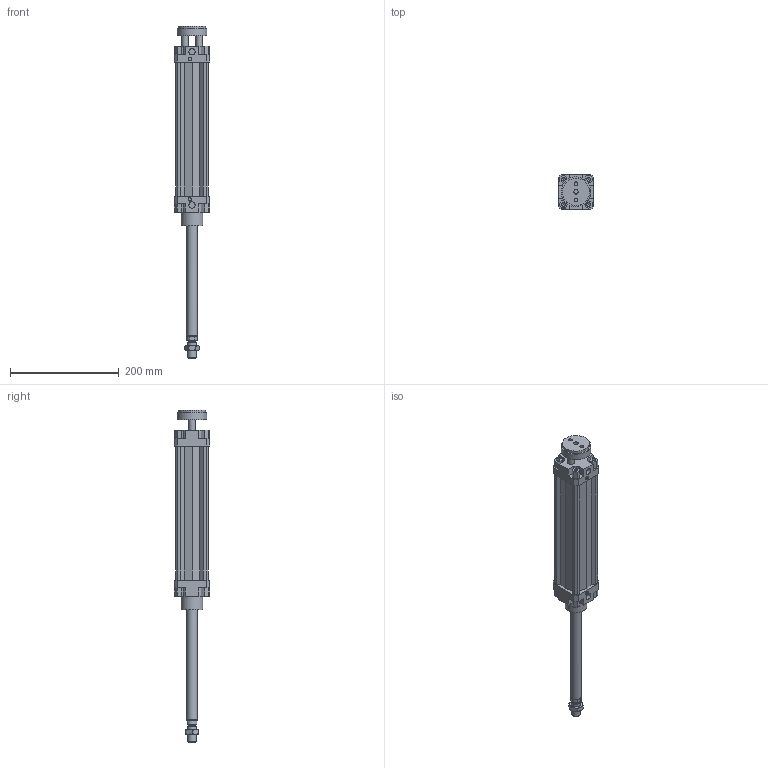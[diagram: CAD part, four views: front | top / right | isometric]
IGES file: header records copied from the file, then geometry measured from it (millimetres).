
Global section: file name: 132#_050_0200_02; native system: Autodesk Inventor 2014; preprocessor: unknown; author: A. Manieri; date: 20161006.155741; units: millimetre
Bounding box: 65 x 65 x 612 mm (x, y, z)
Volume: 765200.6 mm3; surface area: 206839.4 mm2
Topology: 3 solids, 3 shells, 220 faces, 590 edges, 398 vertices
Faces by surface type: bspline 220
